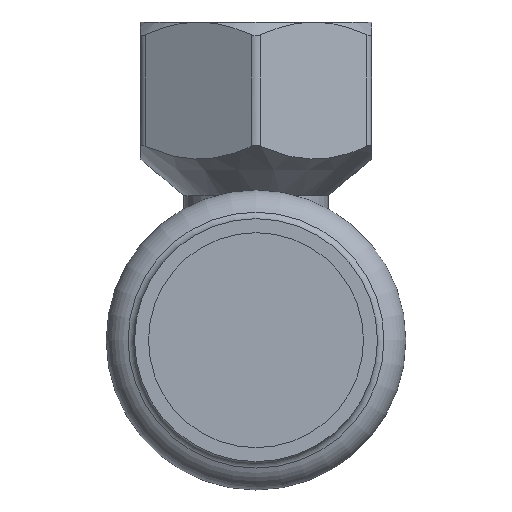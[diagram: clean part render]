
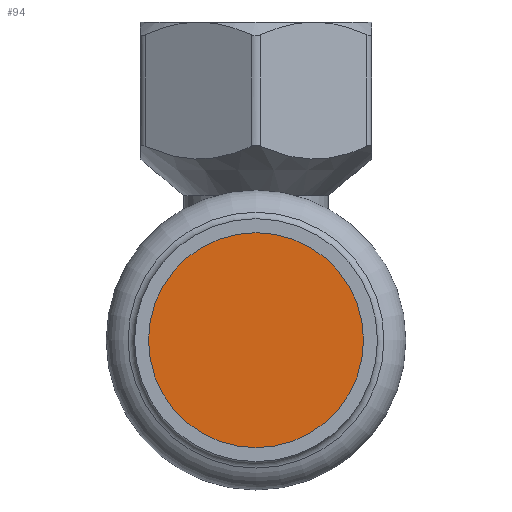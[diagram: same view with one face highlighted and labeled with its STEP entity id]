
A CAD part, front view. The second image highlights one B-rep face of the part: STEP entity #94.
In plain terms, the highlighted planar face has unit normal (0, -1, 0).
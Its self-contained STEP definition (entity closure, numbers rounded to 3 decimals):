
#94=ADVANCED_FACE('',(#429),#431,.T.);
#429=FACE_BOUND('',#430,.T.);
#430=EDGE_LOOP('',(#589));
#431=PLANE('',#432);
#432=AXIS2_PLACEMENT_3D('',#433,#434,#435);
#433=CARTESIAN_POINT('',(0.,-41.029,0.));
#434=DIRECTION('',(0.,-1.,0.));
#435=DIRECTION('',(0.,0.,-1.));
#589=ORIENTED_EDGE('',*,*,#663,.T.);
#663=EDGE_CURVE('',#791,#791,#792,.F.);
#791=VERTEX_POINT('',#2238);
#792=CIRCLE('',#2239,11.15);
#2238=CARTESIAN_POINT('',(0.,-41.029,11.15));
#2239=AXIS2_PLACEMENT_3D('',#2240,#2241,#2242);
#2240=CARTESIAN_POINT('',(0.,-41.029,0.));
#2241=DIRECTION('',(0.,1.,0.));
#2242=DIRECTION('',(0.,0.,1.));
